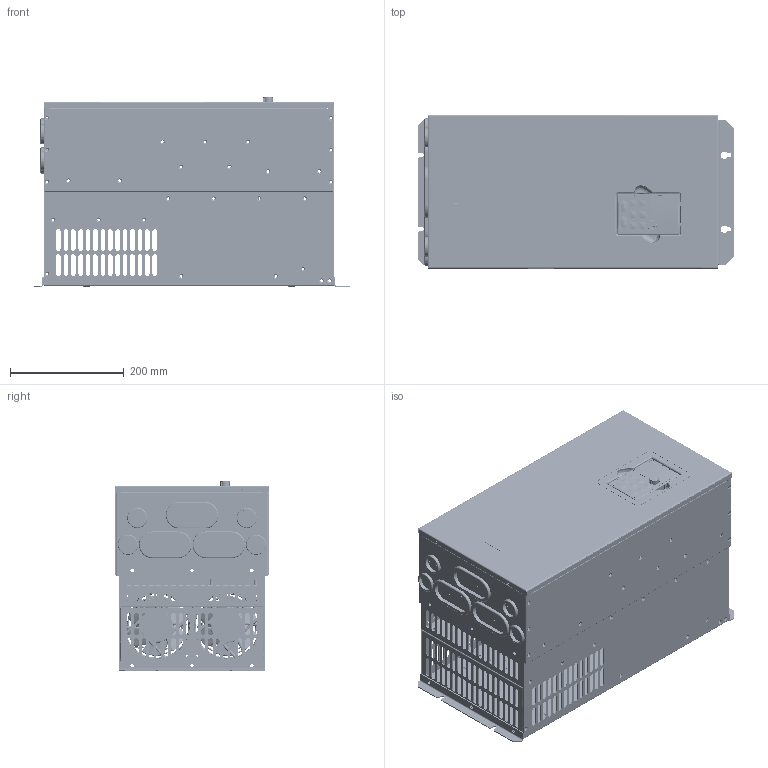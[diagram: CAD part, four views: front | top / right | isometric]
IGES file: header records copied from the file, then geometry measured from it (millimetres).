
Start section: SolidWorks IGES file using analytic representation for surfaces
Global section: file name: Z:\Products\VFD\UMI-B5\B5\UMI-[0370~0550]EU-B5_UMI-[0185~0300]CU-B5\CAD FILES\3D CAD Files\UMI-[0370~0550]EU-B5_UMI-[0185~0300]CU-B5.IGS; native system: SolidWorks 2017; preprocessor: SolidWorks 2017; author: LaorB; date: 200329.185113; units: millimetre
Bounding box: 555 x 270.01 x 332.6 mm (x, y, z)
Surface area: 2378648.3 mm2 (no closed solid volume)
Topology: 0 solids, 0 shells, 4983 faces, 72908 edges, 72868 vertices
Faces by surface type: bspline 2868, revolution 2115
